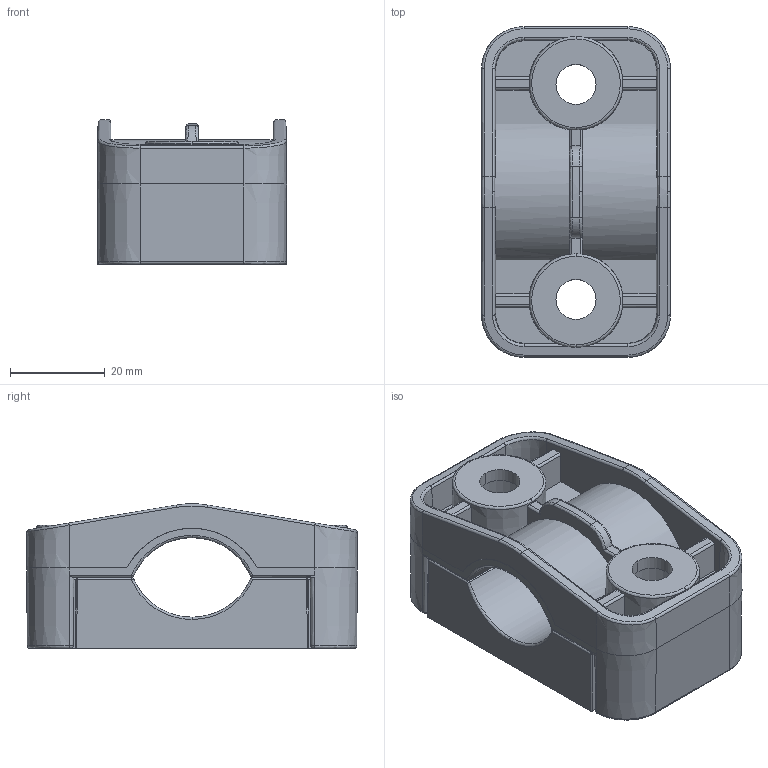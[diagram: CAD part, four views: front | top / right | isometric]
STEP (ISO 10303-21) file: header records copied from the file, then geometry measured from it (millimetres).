
FILE_DESCRIPTION (( 'STEP AP214' ), '1' );
FILE_NAME ('4.460.001.STEP', '2012-04-19T07:45:07', ( 'lukasz' ), ( 'ATC' ), 'SwSTEP 2.0', 'SolidWorks 2010', '' );
FILE_SCHEMA (( 'AUTOMOTIVE_DESIGN' ));
Length unit declared in the file: millimetre
Products named in the file (3): 4.460.001.01_A; 4.460.001; 4.460.001.02_A
Assembly tree (2 placements, depth 2):
  4.460.001
    4.460.001.01_A
    4.460.001.02_A
Bounding box: 40.15 x 70 x 30.6 mm (x, y, z)
Volume: 34114.1 mm3; surface area: 25030 mm2
Topology: 2 solids, 2 shells, 284 faces, 734 edges, 451 vertices
Faces by surface type: cylinder 95, plane 78, bspline 69, cone 40, torus 2
Entity records: 15503 total; most frequent: CARTESIAN_POINT 6207, ORIENTED_EDGE 1456, DIRECTION 1088, EDGE_CURVE 728, VERTEX_POINT 451, AXIS2_PLACEMENT_3D 406, EDGE_LOOP 295, FACE_OUTER_BOUND 284
